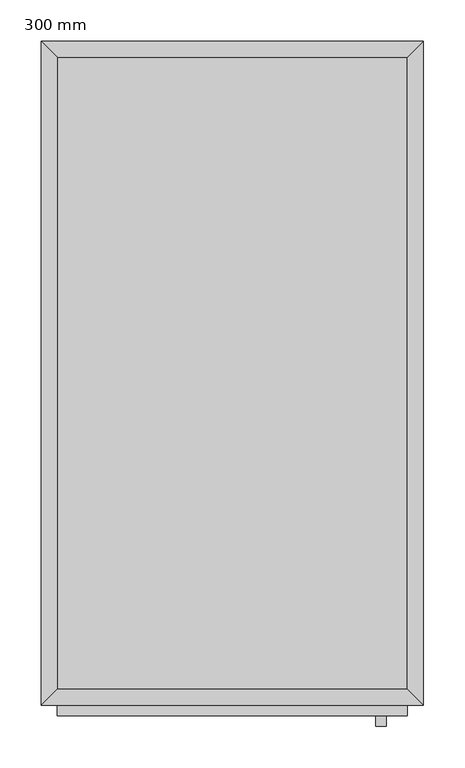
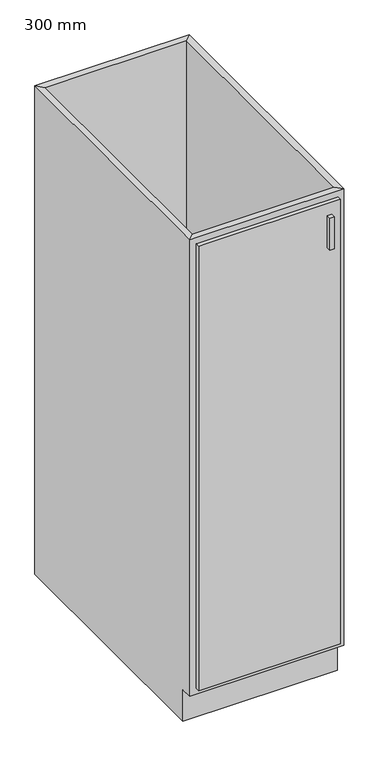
"""IFC4 building model written with IfcOpenShell, lengths in millimetres: furniture geometry, _Produtos_Arq_Bib_M_Armário base-Porta simples : 300 mm."""

from ifc_helpers import new_model, si_unit, frame, origin, place, context, project, spatial, polyline, outline, extrude, faceted_brep, source, transform, mapped, element, save


def furniture_300_mm_f056cf90(model_context):
    return source(origin(), model_context, "Body", "SolidModel", [
        faceted_brep([(229.6877049, -780.95, 1540.0), (229.6877049, -780.95, 100.0), (-192.2122951, -780.95, 100.0), (-192.2122951, -780.95, 1540.0), (-211.2622951, -800.0, 1540.0), (248.7377049, -800.0, 1540.0), (-211.2622951, -800.0, 100.0), (248.7377049, -800.0, 100.0), (-192.2122951, -765.0, 100.0), (-192.2122951, -19.05, 100.0), (-192.2122951, -19.05, 1540.0), (-211.2622951, 0.0, 1540.0), (-211.2622951, 0.0, 0.0), (-211.2622951, -765.0, 0.0), (-211.2622951, -765.0, 100.0), (229.6877049, -19.05, 100.0), (229.6877049, -19.05, 1540.0), (248.7377049, 0.0, 1540.0), (248.7377049, 0.0, 0.0), (229.6877049, -765.0, 100.0), (248.7377049, -765.0, 100.0), (248.7377049, -765.0, 0.0)], [[[0, 1, 2, 3]], [[0, 3, 4, 5]], [[5, 4, 6, 7]], [[2, 1, 7, 6]], [[3, 2, 8, 9, 10]], [[4, 3, 10, 11]], [[6, 4, 11, 12, 13, 14]], [[2, 6, 14, 8]], [[10, 9, 15, 16]], [[11, 10, 16, 17]], [[12, 11, 17, 18]], [[1, 0, 16, 15, 19]], [[0, 5, 17, 16]], [[5, 7, 20, 21, 18, 17]], [[7, 1, 19, 20]], [[8, 19, 15, 9]], [[18, 21, 13, 12]], [[13, 21, 20, 19, 8, 14]]]),
        extrude(outline(polyline([(204.2877049, -825.4), (191.5877049, -825.4), (191.5877049, -812.7), (204.2877049, -812.7), (204.2877049, -825.4)])), frame((0.0, 0.0, 1381.25), z_axis=(0.0, 0.0, 1.0), x_axis=(1.0, 0.0, 0.0)), (0.0, 0.0, 1.0), 101.6),
        extrude(outline(polyline([(229.6877049, -812.7), (-192.2122951, -812.7), (-192.2122951, -800.0), (229.6877049, -800.0), (229.6877049, -812.7)])), frame((0.0, 0.0, 119.05), z_axis=(0.0, 0.0, 1.0), x_axis=(1.0, 0.0, 0.0)), (0.0, 0.0, 1.0), 1401.9),
        extrude(outline(polyline([(229.6877049, -19.05), (229.6877049, -780.95), (-192.2122951, -780.95), (-192.2122951, -19.05), (229.6877049, -19.05)])), frame((0.0, 0.0, 100.0), z_axis=(0.0, 0.0, 1.0), x_axis=(1.0, 0.0, 0.0)), (0.0, 0.0, 1.0), 19.05),
    ])


if __name__ == "__main__":
    model = new_model("IFC4")
    model_context = context("Model", 3, world=origin())
    ifc_project = project(units=[si_unit("LENGTHUNIT", "METRE", prefix="MILLI")], contexts=[model_context])
    site = spatial("IfcSite", under=ifc_project)
    building = spatial("IfcBuilding", under=site)
    placement = place(None, origin())
    furniture_300_mm_shape = furniture_300_mm_f056cf90(model_context)
    element("IfcFurniture", 1, ObjectType="_Produtos_Arq_Bib_M_Armário base-Porta simples : 300 mm", at=placement, inside=building, context=model_context, shape_type="MappedRepresentation", body=[
        mapped(furniture_300_mm_shape, transform((0.0, 0.0, 0.0), x_axis=(1.0, 0.0, 0.0), y_axis=(0.0, 1.0, 0.0), z_axis=(0.0, 0.0, 1.0))),
    ])
    save(model, "model.ifc")
